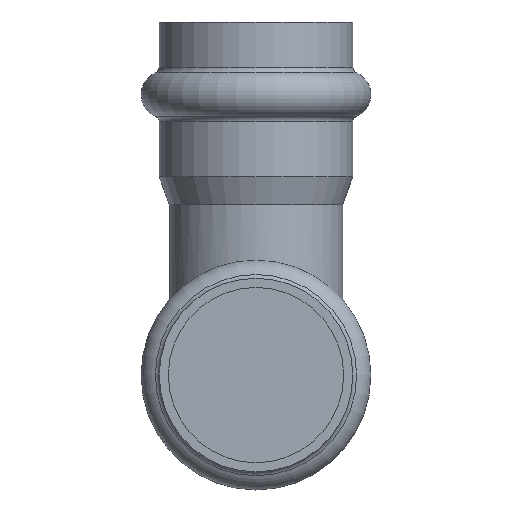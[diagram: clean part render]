
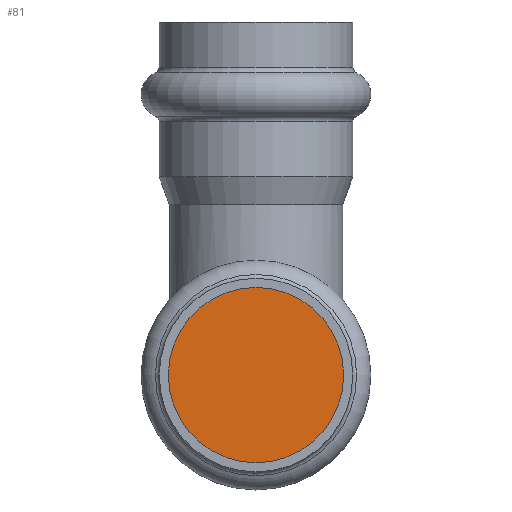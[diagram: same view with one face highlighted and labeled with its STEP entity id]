
A CAD part, front view. The second image highlights one B-rep face of the part: STEP entity #81.
In plain terms, the highlighted planar face has unit normal (0, -1, 0).
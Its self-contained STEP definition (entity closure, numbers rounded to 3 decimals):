
#81=ADVANCED_FACE('',(#332),#334,.T.);
#332=FACE_BOUND('',#333,.T.);
#333=EDGE_LOOP('',(#400));
#334=PLANE('',#335);
#335=AXIS2_PLACEMENT_3D('',#336,#337,#338);
#336=CARTESIAN_POINT('',(0.,-44.219,0.));
#337=DIRECTION('',(0.,-1.,0.));
#338=DIRECTION('',(0.,0.,-1.));
#400=ORIENTED_EDGE('',*,*,#431,.T.);
#431=EDGE_CURVE('',#492,#492,#493,.F.);
#492=VERTEX_POINT('',#644);
#493=CIRCLE('',#645,14.15);
#644=CARTESIAN_POINT('',(0.,-44.219,14.15));
#645=AXIS2_PLACEMENT_3D('',#646,#647,#648);
#646=CARTESIAN_POINT('',(0.,-44.219,0.));
#647=DIRECTION('',(0.,1.,0.));
#648=DIRECTION('',(0.,0.,1.));
